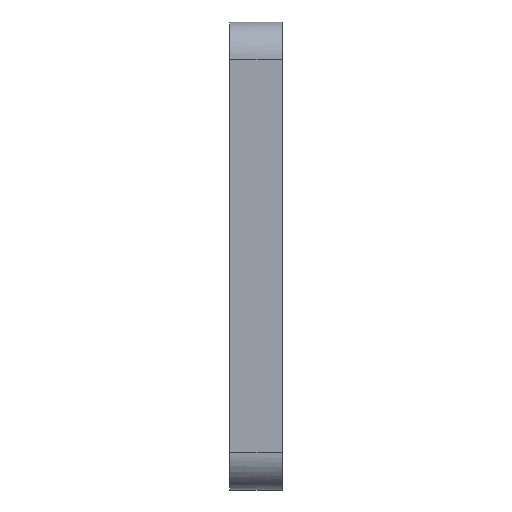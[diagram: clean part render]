
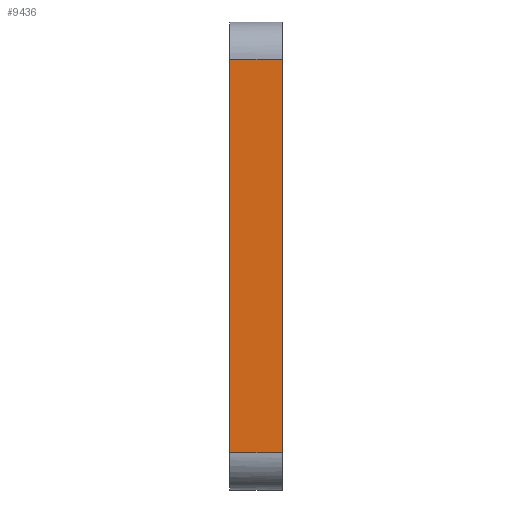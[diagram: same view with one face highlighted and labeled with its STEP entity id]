
A CAD part, left-side view. The second image highlights one B-rep face of the part: STEP entity #9436.
In plain terms, the highlighted planar face has unit normal (-1, 0, 0).
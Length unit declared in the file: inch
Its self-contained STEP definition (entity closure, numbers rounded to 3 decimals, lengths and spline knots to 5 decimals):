
#9420 = VERTEX_POINT ( 'NONE', #9827 ) ;
#9436 = ADVANCED_FACE ( 'NONE', ( #9935 ), #9934, .T. ) ;
#9438 = EDGE_LOOP ( 'NONE', ( #11020, #11017, #10970, #10966 ) ) ;
#9441 = EDGE_CURVE ( 'NONE', #9420, #10981, #9925, .T. ) ;
#9827 = CARTESIAN_POINT ( 'NONE',  ( -7.99396, -1.385, 5.18912 ) ) ;
#9922 = DIRECTION ( 'NONE',  ( 0., 1., 0. ) ) ;
#9923 = VECTOR ( 'NONE', #9922, 39.37008 ) ;
#9924 = CARTESIAN_POINT ( 'NONE',  ( -7.99396, -21.67999, 5.18912 ) ) ;
#9925 = LINE ( 'NONE', #9924, #9923 ) ;
#9930 = DIRECTION ( 'NONE',  ( 0., 0., 1. ) ) ;
#9931 = DIRECTION ( 'NONE',  ( -1., 0., 0. ) ) ;
#9932 = CARTESIAN_POINT ( 'NONE',  ( -7.99396, -21.67999, -5.18912 ) ) ;
#9933 = AXIS2_PLACEMENT_3D ( 'NONE', #9932, #9931, #9930 ) ;
#9934 = PLANE ( 'NONE',  #9933 ) ;
#9935 = FACE_OUTER_BOUND ( 'NONE', #9438, .T. ) ;
#10180 = DIRECTION ( 'NONE',  ( 0., 1., 0. ) ) ;
#10181 = VECTOR ( 'NONE', #10180, 39.37008 ) ;
#10182 = CARTESIAN_POINT ( 'NONE',  ( -7.99396, -21.67999, -5.18912 ) ) ;
#10183 = LINE ( 'NONE', #10182, #10181 ) ;
#10359 = CARTESIAN_POINT ( 'NONE',  ( -7.99396, -1.385, -5.18912 ) ) ;
#10367 = CARTESIAN_POINT ( 'NONE',  ( -7.99396, 0., 5.18912 ) ) ;
#10456 = DIRECTION ( 'NONE',  ( 0., 0., 1. ) ) ;
#10457 = VECTOR ( 'NONE', #10456, 39.37008 ) ;
#10458 = CARTESIAN_POINT ( 'NONE',  ( -7.99396, 0., -5.18912 ) ) ;
#10459 = LINE ( 'NONE', #10458, #10457 ) ;
#10546 = DIRECTION ( 'NONE',  ( 0., 0., -1. ) ) ;
#10547 = VECTOR ( 'NONE', #10546, 39.37008 ) ;
#10548 = CARTESIAN_POINT ( 'NONE',  ( -7.99396, -1.385, -5.18912 ) ) ;
#10549 = LINE ( 'NONE', #10548, #10547 ) ;
#10570 = CARTESIAN_POINT ( 'NONE',  ( -7.99396, 0., -5.18912 ) ) ;
#10900 = EDGE_CURVE ( 'NONE', #10987, #11023, #10183, .T. ) ;
#10966 = ORIENTED_EDGE ( 'NONE', *, *, #10900, .F. ) ;
#10970 = ORIENTED_EDGE ( 'NONE', *, *, #11003, .F. ) ;
#10981 = VERTEX_POINT ( 'NONE', #10367 ) ;
#10987 = VERTEX_POINT ( 'NONE', #10359 ) ;
#11003 = EDGE_CURVE ( 'NONE', #11023, #10981, #10459, .T. ) ;
#11011 = EDGE_CURVE ( 'NONE', #9420, #10987, #10549, .T. ) ;
#11017 = ORIENTED_EDGE ( 'NONE', *, *, #9441, .T. ) ;
#11020 = ORIENTED_EDGE ( 'NONE', *, *, #11011, .F. ) ;
#11023 = VERTEX_POINT ( 'NONE', #10570 ) ;
